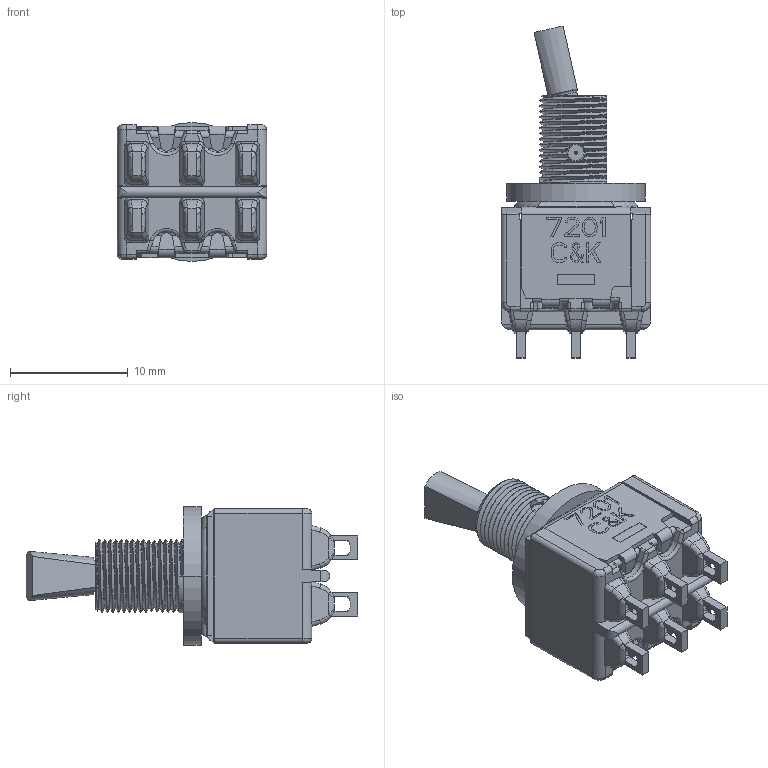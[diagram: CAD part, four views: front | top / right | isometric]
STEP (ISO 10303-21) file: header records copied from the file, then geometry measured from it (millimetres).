
FILE_DESCRIPTION((''),'2;1');
FILE_NAME('72XXP4CWZ_SW0001_PRT','2012-08-08T',('jtrepler'),(''),'PRO/ENGINEER BY PARAMETRIC TECHNOLOGY CORPORATION, 2011080','PRO/ENGINEER BY PARAMETRIC TECHNOLOGY CORPORATION, 2011080','');
FILE_SCHEMA(('AUTOMOTIVE_DESIGN_CC2 { 1 2 10303 214 -1 1 5 2 }'));
Products named in the file (1): 72XXP4CWZ_SW0001_PRT
Bounding box: 12.7 x 28.24 x 11.81 mm (x, y, z)
Volume: 1004.1 mm3; surface area: 2521.8 mm2
Topology: 1 solids, 1 shells, 1262 faces, 3646 edges, 2308 vertices
Faces by surface type: plane 746, cylinder 328, bspline 146, torus 18, cone 16, sphere 8
Entity records: 55685 total; most frequent: CARTESIAN_POINT 23815, ORIENTED_EDGE 7280, DIRECTION 5781, EDGE_CURVE 3640, VECTOR 2415, LINE 2415, VERTEX_POINT 2308, AXIS2_PLACEMENT_3D 1683
